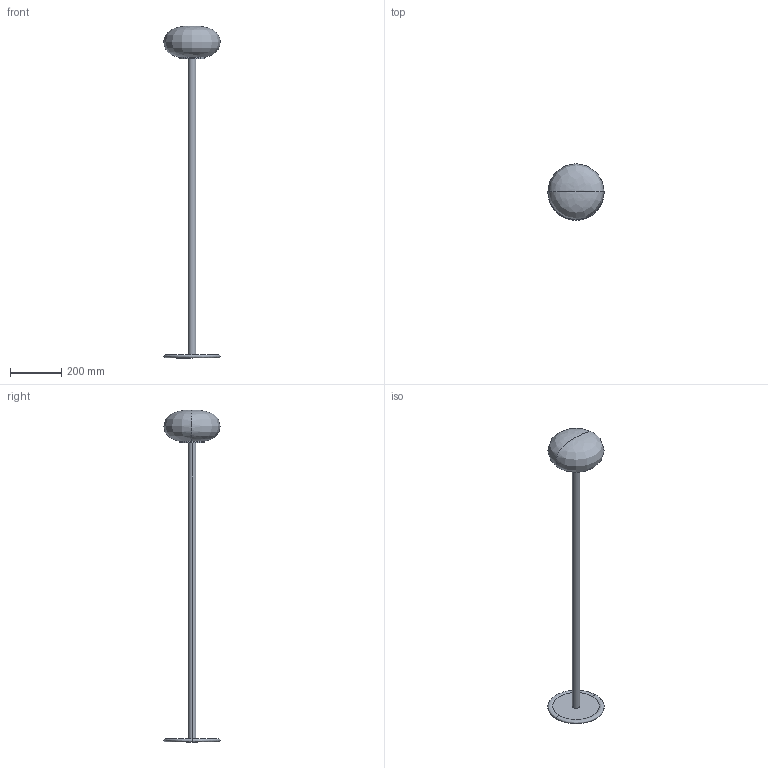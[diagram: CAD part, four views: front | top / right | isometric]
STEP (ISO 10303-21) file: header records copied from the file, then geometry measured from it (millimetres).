
FILE_DESCRIPTION(/* description */ (''),/* implementation_level */ '2;1');
FILE_NAME(/* name */ 'ILKW_SNOWBALL22_V2_Floor_3D',/* time_stamp */ '2026-08-28T17:23:27+09:00',/* author */ (''),/* organization */ (''),/* preprocessor_version */ 'ST-DEVELOPER v19.2',/* originating_system */ 'Rhino 8.21',/* authorisation */ '');
FILE_SCHEMA (('CONFIG_CONTROL_DESIGN'));
Length unit declared in the file: millimetre
Products named in the file (1): Document
Bounding box: 219.99 x 220.01 x 1300 mm (x, y, z)
Volume: 4761604.9 mm3; surface area: 309344.5 mm2
Topology: 1 solids, 1 shells, 11 faces, 24 edges, 14 vertices
Faces by surface type: cylinder 4, bspline 4, plane 3
Entity records: 819 total; most frequent: CARTESIAN_POINT 553, ORIENTED_EDGE 40, DIRECTION 23, EDGE_CURVE 20, AXIS2_PLACEMENT_3D 15, EDGE_LOOP 14, VERTEX_POINT 14, ADVANCED_FACE 11
